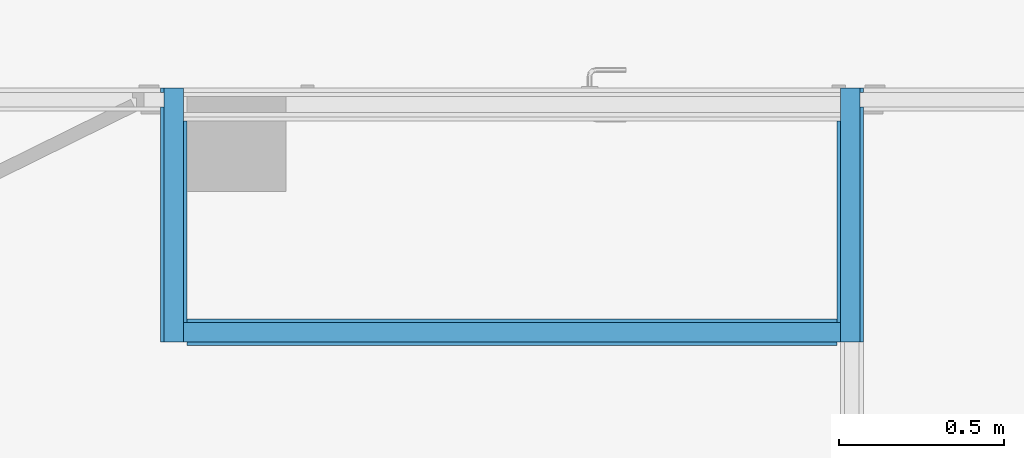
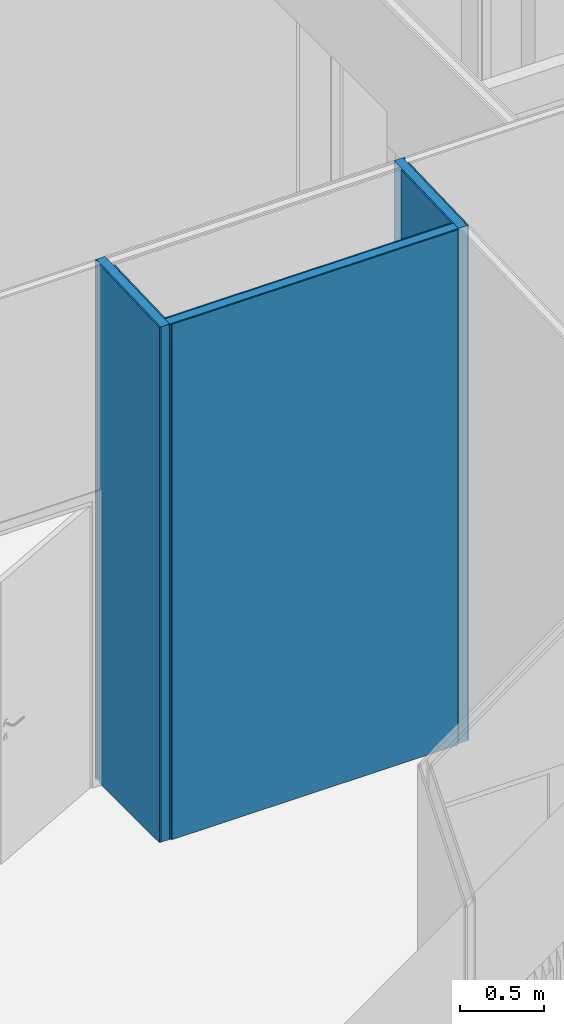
# One storey, part 29 of 34: 9 building element parts, 3 elements without a shape of their own.
"""IFC2X3 building model written with IfcOpenShell, lengths in metres."""

import ifcopenshell
import ifcopenshell.guid

model = None  # the IFC model being written
_history = None  # IfcOwnerHistory: only IFC2X3 demands one
_inside = {}  # id of a spatial element -> (the spatial element, [elements in it])
_under = {}  # id of a project, library or spatial element -> (it, [spatial elements below it])
_declared = {}  # id of a project -> (the project, [libraries it declares])
_typed = {}  # id of a type object -> (the type object, [elements of that type])
_made_of = {}  # id of a material, layer set ... -> (it, [elements and type objects made of it])


def new_model(schema):
    """Start an empty IFC model of exactly this schema.

    Asked for "IFC4X3", IfcOpenShell would pick the latest addendum, in which some entities
    have other attributes; the version numbers below select the first issue.
    IFC2X3 requires an IfcOwnerHistory on every rooted entity: one is made here for all.
    """
    global model, _history
    if schema == "IFC4X3":
        model = ifcopenshell.file(schema_version=(4, 3, 0, 0))
    else:
        model = ifcopenshell.file(schema=schema)
    _inside.clear()
    _under.clear()
    _declared.clear()
    _typed.clear()
    _made_of.clear()
    _history = None
    if model.schema == "IFC2X3":
        org = make("IfcOrganization", Name="unknown")
        user = make(
            "IfcPersonAndOrganization",
            ThePerson=make("IfcPerson", FamilyName="unknown"),
            TheOrganization=org,
        )
        app = make(
            "IfcApplication",
            ApplicationDeveloper=org,
            Version="unknown",
            ApplicationFullName="unknown",
            ApplicationIdentifier="unknown",
        )
        _history = make(
            "IfcOwnerHistory",
            OwningUser=user,
            OwningApplication=app,
            ChangeAction="ADDED",
            CreationDate=0,
        )
    return model


def make(cls, **values):
    """One entity of the class cls with the attributes given. An attribute that is None is left unset."""
    return model.create_entity(
        cls, **{name: value for name, value in values.items() if value is not None}
    )


def entity(cls, *values):
    """Any entity or typed value of the class cls, its attributes in the order of the schema. None: left unset."""
    e = model.create_entity(cls)
    for i, value in enumerate(values):
        if value is not None:
            e[i] = value
    return e


def rooted(cls, **values):
    """An entity with a GlobalId (a new one), such as an element, a storey or a relation."""
    return make(cls, GlobalId=ifcopenshell.guid.new(), OwnerHistory=_history, **values)


def si_unit(unit_type, name, prefix=None):
    """IfcSIUnit, for example si_unit("LENGTHUNIT", "METRE", prefix="MILLI")."""
    return make("IfcSIUnit", UnitType=unit_type, Prefix=prefix, Name=name)


def converted_unit(unit_type, name, factor, base, dimensions=None, offset=None):
    """IfcConversionBasedUnit, such as the inch: factor (a typed value) times the base unit."""
    return make(
        "IfcConversionBasedUnit"
        if offset is None
        else "IfcConversionBasedUnitWithOffset",
        ConversionOffset=offset,
        Dimensions=None
        if dimensions is None
        else entity("IfcDimensionalExponents", *dimensions),
        UnitType=unit_type,
        Name=name,
        ConversionFactor=make(
            "IfcMeasureWithUnit", ValueComponent=factor, UnitComponent=base
        ),
    )


def derived_unit(unit_type, elements):
    """IfcDerivedUnit: a product of units, each with its exponent."""
    return make(
        "IfcDerivedUnit",
        Elements=[
            make("IfcDerivedUnitElement", Unit=unit, Exponent=power)
            for unit, power in elements
        ],
        UnitType=unit_type,
    )


def money_unit(currency):
    """IfcMonetaryUnit."""
    return make("IfcMonetaryUnit", Currency=currency)


def assignment(units):
    """IfcUnitAssignment: the units of a project."""
    return None if units is None else make("IfcUnitAssignment", Units=units)


def point(xyz):
    """IfcCartesianPoint."""
    return None if xyz is None else make("IfcCartesianPoint", Coordinates=xyz)


def direction(xyz):
    """IfcDirection."""
    return None if xyz is None else make("IfcDirection", DirectionRatios=xyz)


def frame(location, z_axis=None, x_axis=None):
    """IfcAxis2Placement3D, a coordinate frame: its origin and axes. An axis left out is left unset."""
    return make(
        "IfcAxis2Placement3D",
        Location=point(location),
        Axis=direction(z_axis),
        RefDirection=direction(x_axis),
    )


def origin_with_axes():
    """The frame at (0, 0, 0) with the z axis (0, 0, 1) and the x axis (1, 0, 0) written out."""
    return frame((0.0, 0.0, 0.0), z_axis=(0.0, 0.0, 1.0), x_axis=(1.0, 0.0, 0.0))


def place(relative_to, where):
    """IfcLocalPlacement: puts the frame where relative to a parent placement (None: the world)."""
    return make(
        "IfcLocalPlacement", PlacementRelTo=relative_to, RelativePlacement=where
    )


def context(
    kind, dimensions, precision=None, world=None, true_north=None, identifier=None
):
    """IfcGeometricRepresentationContext, for example the 3D "Model" context."""
    return make(
        "IfcGeometricRepresentationContext",
        ContextIdentifier=identifier,
        ContextType=kind,
        CoordinateSpaceDimension=dimensions,
        Precision=precision,
        WorldCoordinateSystem=world,
        TrueNorth=true_north,
    )


def subcontext(parent, identifier, kind, view, scale=None):
    """IfcGeometricRepresentationSubContext, for example "Body" below "Model"."""
    return make(
        "IfcGeometricRepresentationSubContext",
        ContextIdentifier=identifier,
        ContextType=kind,
        ParentContext=parent,
        TargetScale=scale,
        TargetView=view,
    )


def project(units=None, contexts=None):
    """IfcProject with its units and contexts."""
    return rooted(
        "IfcProject",
        Name="project",
        RepresentationContexts=contexts,
        UnitsInContext=assignment(units),
    )


def spatial(cls, under=None, at=None, **own):
    """A site, building, storey or space (cls), placed at a placement, below another one or the project."""
    s = rooted(cls, ObjectPlacement=at, **own)
    if under is not None:
        _under.setdefault(under.id(), (under, []))[1].append(s)
    return s


def polyline(points):
    """IfcPolyline through the points."""
    return make("IfcPolyline", Points=[point(p) for p in points])


def outline(outer, holes=None, kind="AREA"):
    """IfcArbitraryClosedProfileDef: a profile drawn as a closed curve; with holes, ...WithVoids."""
    if holes is None:
        return make("IfcArbitraryClosedProfileDef", ProfileType=kind, OuterCurve=outer)
    return make(
        "IfcArbitraryProfileDefWithVoids",
        ProfileType=kind,
        OuterCurve=outer,
        InnerCurves=holes,
    )


def extrude(swept, where, along, depth):
    """IfcExtrudedAreaSolid: the profile swept, set in the frame where, extruded along a direction by depth."""
    return make(
        "IfcExtrudedAreaSolid",
        SweptArea=swept,
        Position=where,
        ExtrudedDirection=direction(along),
        Depth=depth,
    )


def boolean(op, a, b):
    """IfcBooleanResult of two solids."""
    return make("IfcBooleanResult", Operator=op, FirstOperand=a, SecondOperand=b)


def faces_of(points, faces, orient=None, outer=None):
    """IfcFace entities. A face is a list of loops; a loop is a list of indices into points, from 0.

    orient and outer hold one flag for each loop. By default every Orientation is true, the
    first loop of a face is its IfcFaceOuterBound and the others are IfcFaceBound.
    """
    made = []
    for i, loops in enumerate(faces):
        bounds = []
        for j, loop in enumerate(loops):
            is_outer = j == 0 if outer is None else outer[i][j]
            bounds.append(
                make(
                    "IfcFaceOuterBound" if is_outer else "IfcFaceBound",
                    Bound=make("IfcPolyLoop", Polygon=[points[k] for k in loop]),
                    Orientation=True if orient is None else orient[i][j],
                )
            )
        made.append(make("IfcFace", Bounds=bounds))
    return made


def faceted_brep(points, faces, orient=None, outer=None, voids=None):
    """IfcFacetedBrep: a solid bounded by flat faces; with voids (closed shells), ...WithVoids."""
    shared = [point(p) for p in points]
    hull = make("IfcClosedShell", CfsFaces=faces_of(shared, faces, orient, outer))
    if voids is None:
        return make("IfcFacetedBrep", Outer=hull)
    return make(
        "IfcFacetedBrepWithVoids",
        Outer=hull,
        Voids=[
            make(cls, CfsFaces=faces_of(shared, fs, o, b)) for cls, fs, o, b in voids
        ],
    )


def shape(context_of_items, identifier, shape_type, items):
    """IfcShapeRepresentation: the items that make up one representation, for example the "Body"."""
    return make(
        "IfcShapeRepresentation",
        ContextOfItems=context_of_items,
        RepresentationIdentifier=identifier,
        RepresentationType=shape_type,
        Items=items,
    )


def material(Name=None, Category=None):
    """IfcMaterial."""
    return make("IfcMaterial", Name=Name, Category=Category)


def made_of(thing, what):
    """Note that an element or type object is made of a material, layer set ...; save() writes the relation."""
    if what is not None:
        _made_of.setdefault(what.id(), (what, []))[1].append(thing)
    return thing


def type_object(cls, material=None, **own):
    """A type object (cls), such as IfcWallType, which elements share."""
    return made_of(rooted(cls, **own), material)


def element(
    cls,
    number,
    at=None,
    inside=None,
    cuts=None,
    type_object=None,
    material=None,
    context=None,
    identifier="Body",
    shape_type=None,
    held_by="IfcProductDefinitionShape",
    body=None,
    shapes=None,
    **own,
):
    """One element of the class cls, such as IfcWall. Its Tag is "e" and its number.

    at: its placement. inside: the storey or other place that contains it. cuts: it is an
    opening in that element (IfcRelVoidsElement). A single representation is given by context,
    identifier, shape_type and body (its items); several are given by shapes. held_by: the class
    of the entity that holds the representations. save() writes the other relations.
    """
    e = rooted(cls, Tag="e%d" % number, ObjectPlacement=at, **own)
    if body is not None:
        shapes = [shape(context, identifier, shape_type, body)]
    if shapes is not None:
        e.Representation = make(held_by, Representations=shapes)
    if inside is not None:
        _inside.setdefault(inside.id(), (inside, []))[1].append(e)
    if cuts is not None:
        rooted(
            "IfcRelVoidsElement", RelatingBuildingElement=cuts, RelatedOpeningElement=e
        )
    if type_object is not None:
        _typed.setdefault(type_object.id(), (type_object, []))[1].append(e)
    return made_of(e, material)


def aggregate(whole, parts):
    """IfcRelAggregates: a whole, such as a stair, and the parts it consists of."""
    return rooted("IfcRelAggregates", RelatingObject=whole, RelatedObjects=parts)


def save(model, path):
    """Write the relations noted so far, then the file.

    IfcRelAggregates (storeys below a building ...), IfcRelContainedInSpatialStructure (elements
    in a storey), IfcRelDefinesByType, IfcRelAssociatesMaterial and IfcRelDeclares: one each for
    every whole, place, type object, material and project.
    """
    for whole, parts in _under.values():
        aggregate(whole, parts)
    for where, things in _inside.values():
        rooted(
            "IfcRelContainedInSpatialStructure",
            RelatedElements=things,
            RelatingStructure=where,
        )
    for kind, things in _typed.values():
        rooted("IfcRelDefinesByType", RelatedObjects=things, RelatingType=kind)
    for what, things in _made_of.values():
        rooted("IfcRelAssociatesMaterial", RelatedObjects=things, RelatingMaterial=what)
    for by, libraries in _declared.values():
        rooted("IfcRelDeclares", RelatingContext=by, RelatedDefinitions=libraries)
    model.write(path)


model = new_model("IFC2X3")

# Units and contexts
model_context = context("Model", 3, precision=1e-05, world=origin_with_axes(), true_north=direction((0.0, 1.0)))
body_context = subcontext(model_context, "Body", "Model", "MODEL_VIEW")
ifc_project = project(units=[si_unit("LENGTHUNIT", "METRE"), si_unit("AREAUNIT", "SQUARE_METRE"), si_unit("VOLUMEUNIT", "CUBIC_METRE"), converted_unit("PLANEANGLEUNIT", "DEGREE", entity("IfcPlaneAngleMeasure", 0.0174532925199), si_unit("PLANEANGLEUNIT", "RADIAN"), dimensions=[0, 0, 0, 0, 0, 0, 0]), money_unit("CHF"), converted_unit("TIMEUNIT", "Year", entity("IfcTimeMeasure", 31556926.0), si_unit("TIMEUNIT", "SECOND"), dimensions=[0, 0, 1, 0, 0, 0, 0]), si_unit("MASSUNIT", "GRAM", prefix="KILO"), si_unit("THERMODYNAMICTEMPERATUREUNIT", "DEGREE_CELSIUS"), si_unit("LUMINOUSINTENSITYUNIT", "LUMEN"), si_unit("ENERGYUNIT", "JOULE", prefix="MEGA"), derived_unit("THERMALCONDUCTANCEUNIT", [(si_unit("POWERUNIT", "WATT"), 1), (si_unit("LENGTHUNIT", "METRE"), -1), (si_unit("THERMODYNAMICTEMPERATUREUNIT", "KELVIN"), -1)]), derived_unit("SPECIFICHEATCAPACITYUNIT", [(si_unit("ENERGYUNIT", "JOULE"), 1), (si_unit("MASSUNIT", "GRAM", prefix="KILO"), -1), (si_unit("THERMODYNAMICTEMPERATUREUNIT", "KELVIN"), -1)]), derived_unit("MASSDENSITYUNIT", [(si_unit("MASSUNIT", "GRAM", prefix="KILO"), 1), (si_unit("VOLUMEUNIT", "CUBIC_METRE"), -1)])], contexts=[model_context])

# Site, building, storey
site_placement = place(None, origin_with_axes())
site = spatial("IfcSite", under=ifc_project, at=site_placement, Name="Site", CompositionType="ELEMENT")
building_placement = place(site_placement, origin_with_axes())
building = spatial("IfcBuilding", under=site, at=building_placement, Name="Bâtiment", CompositionType="ELEMENT")
storey_placement = place(building_placement, origin_with_axes())
storey = spatial("IfcBuildingStorey", under=building, at=storey_placement, Name="Rez-de-chaussée", CompositionType="ELEMENT", Elevation=0.0)

# Wall, building element parts
wall_type = type_object("IfcWallType", Name="Carreaux de platre 80", PredefinedType="NOTDEFINED")
wall_1_placement = place(storey_placement, frame((30.5694697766, 10.2101256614, 0.0), z_axis=(0.0, 0.0, 1.0), x_axis=(0.0, 1.0, 0.0)))
wall_1 = element("IfcWall", 1, at=wall_1_placement, inside=storey, type_object=wall_type, Name="MUR_EXT-006")
ifc_material_1 = material(Name="Finition int - Plaque de plâtre")
building_element_part_1_placement = place(wall_1_placement, origin_with_axes())
building_element_part_1 = element("IfcBuildingElementPart", 2, at=building_element_part_1_placement, material=ifc_material_1, Name="Finition int - Plaque de plâtre", context=body_context, shape_type="CSG", body=[
    boolean("DIFFERENCE", boolean("DIFFERENCE", boolean("DIFFERENCE", extrude(outline(polyline([(0.0, 0.0), (0.77, 0.0), (0.77, 0.01), (0.0, 0.01), (0.0, 0.0)])), origin_with_axes(), (0.0, 0.0, 1.0), 4.0), faceted_brep([(0.757, 0.0, 0.0), (0.757, 0.0, 3.77734939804), (0.77, 0.0, 3.77780439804), (0.77, 0.0, 4.0), (0.0, 0.0, 4.0), (0.0, 0.0, 3.75085439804), (0.713, 0.0, 3.77580939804), (0.713, 0.0, 0.0), (0.757, 0.01, 0.0), (0.757, 0.01, 3.77734939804), (0.77, 0.01, 3.77780439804), (0.77, 0.01, 4.0), (0.0, 0.01, 4.0), (0.0, 0.01, 3.75085439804), (0.713, 0.01, 3.77580939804), (0.713, 0.01, 0.0)], [[[0, 1, 2, 3, 4, 5, 6, 7]], [[1, 0, 8, 9]], [[10, 2, 1, 9]], [[2, 10, 11, 3]], [[12, 4, 3, 11]], [[13, 5, 4, 12]], [[6, 5, 13, 14]], [[7, 6, 14, 15]], [[8, 0, 7, 15]], [[9, 8, 15, 14, 13, 12, 11, 10]]])), faceted_brep([(0.713, 0.01, 3.77580939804), (0.757, 0.01, 3.77734939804), (0.77, 0.01, 3.77780439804), (0.77, 0.01, 4.0), (0.0, 0.01, 4.0), (0.0, 0.01, 3.75085439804), (0.77, 0.07, 3.77780439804), (0.0, 0.07, 3.75085439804), (0.06, 0.07, 3.75295439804), (0.67, 0.07, 3.77430439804), (0.77, 0.07, 4.0), (0.0, 0.07, 4.0)], [[[0, 1, 2, 3, 4, 5]], [[6, 2, 1, 0, 5, 7, 8, 9]], [[2, 6, 10, 3]], [[11, 4, 3, 10]], [[7, 5, 4, 11]], [[8, 7, 11, 10, 6, 9]]])), faceted_brep([(0.06, 0.07, 0.0), (0.06, 0.07, 3.75295439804), (0.67, 0.07, 3.77430439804), (0.67, 0.07, 0.0), (0.77, 0.07, 0.0), (0.77, 0.07, 4.0), (0.0, 0.07, 4.0), (0.0, 0.07, 0.0), (0.06, 0.08, 0.0), (0.06, 0.08, 3.75295439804), (0.67, 0.08, 3.77430439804), (0.67, 0.08, 0.0), (0.77, 0.08, 0.0), (0.77, 0.08, 4.0), (0.0, 0.08, 4.0), (0.0, 0.08, 0.0)], [[[0, 1, 2, 3, 4, 5, 6, 7]], [[1, 0, 8, 9]], [[2, 1, 9, 10]], [[3, 2, 10, 11]], [[3, 11, 12, 4]], [[5, 4, 12, 13]], [[14, 6, 5, 13]], [[14, 15, 7, 6]], [[8, 0, 7, 15]], [[9, 8, 15, 14, 13, 12, 11, 10]]])),
])
ifc_material_2 = material(Name="Cloison - Carreaux de plâtre")
building_element_part_2_placement = place(wall_1_placement, origin_with_axes())
building_element_part_2 = element("IfcBuildingElementPart", 3, at=building_element_part_2_placement, material=ifc_material_2, Name="Cloison - Carreaux de plâtre", context=body_context, shape_type="CSG", body=[
    boolean("DIFFERENCE", boolean("DIFFERENCE", boolean("DIFFERENCE", extrude(outline(polyline([(0.0, 0.01), (0.77, 0.01), (0.77, 0.07), (0.0, 0.07), (0.0, 0.01)])), origin_with_axes(), (0.0, 0.0, 1.0), 4.0), faceted_brep([(0.757, 0.0, 0.0), (0.757, 0.0, 3.77734939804), (0.77, 0.0, 3.77780439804), (0.77, 0.0, 4.0), (0.0, 0.0, 4.0), (0.0, 0.0, 3.75085439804), (0.713, 0.0, 3.77580939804), (0.713, 0.0, 0.0), (0.757, 0.01, 0.0), (0.757, 0.01, 3.77734939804), (0.77, 0.01, 3.77780439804), (0.77, 0.01, 4.0), (0.0, 0.01, 4.0), (0.0, 0.01, 3.75085439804), (0.713, 0.01, 3.77580939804), (0.713, 0.01, 0.0)], [[[0, 1, 2, 3, 4, 5, 6, 7]], [[1, 0, 8, 9]], [[10, 2, 1, 9]], [[2, 10, 11, 3]], [[12, 4, 3, 11]], [[13, 5, 4, 12]], [[6, 5, 13, 14]], [[7, 6, 14, 15]], [[8, 0, 7, 15]], [[9, 8, 15, 14, 13, 12, 11, 10]]])), faceted_brep([(0.713, 0.01, 3.77580939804), (0.757, 0.01, 3.77734939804), (0.77, 0.01, 3.77780439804), (0.77, 0.01, 4.0), (0.0, 0.01, 4.0), (0.0, 0.01, 3.75085439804), (0.77, 0.07, 3.77780439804), (0.0, 0.07, 3.75085439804), (0.06, 0.07, 3.75295439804), (0.67, 0.07, 3.77430439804), (0.77, 0.07, 4.0), (0.0, 0.07, 4.0)], [[[0, 1, 2, 3, 4, 5]], [[6, 2, 1, 0, 5, 7, 8, 9]], [[2, 6, 10, 3]], [[11, 4, 3, 10]], [[7, 5, 4, 11]], [[8, 7, 11, 10, 6, 9]]])), faceted_brep([(0.06, 0.07, 0.0), (0.06, 0.07, 3.75295439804), (0.67, 0.07, 3.77430439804), (0.67, 0.07, 0.0), (0.77, 0.07, 0.0), (0.77, 0.07, 4.0), (0.0, 0.07, 4.0), (0.0, 0.07, 0.0), (0.06, 0.08, 0.0), (0.06, 0.08, 3.75295439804), (0.67, 0.08, 3.77430439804), (0.67, 0.08, 0.0), (0.77, 0.08, 0.0), (0.77, 0.08, 4.0), (0.0, 0.08, 4.0), (0.0, 0.08, 0.0)], [[[0, 1, 2, 3, 4, 5, 6, 7]], [[1, 0, 8, 9]], [[2, 1, 9, 10]], [[3, 2, 10, 11]], [[3, 11, 12, 4]], [[5, 4, 12, 13]], [[14, 6, 5, 13]], [[14, 15, 7, 6]], [[8, 0, 7, 15]], [[9, 8, 15, 14, 13, 12, 11, 10]]])),
])
building_element_part_3_placement = place(wall_1_placement, origin_with_axes())
building_element_part_3 = element("IfcBuildingElementPart", 4, at=building_element_part_3_placement, material=ifc_material_1, Name="Finition int - Plaque de plâtre", context=body_context, shape_type="CSG", body=[
    boolean("DIFFERENCE", boolean("DIFFERENCE", boolean("DIFFERENCE", extrude(outline(polyline([(0.0, 0.07), (0.77, 0.07), (0.77, 0.08), (0.0, 0.08), (0.0, 0.07)])), origin_with_axes(), (0.0, 0.0, 1.0), 4.0), faceted_brep([(0.757, 0.0, 0.0), (0.757, 0.0, 3.77734939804), (0.77, 0.0, 3.77780439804), (0.77, 0.0, 4.0), (0.0, 0.0, 4.0), (0.0, 0.0, 3.75085439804), (0.713, 0.0, 3.77580939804), (0.713, 0.0, 0.0), (0.757, 0.01, 0.0), (0.757, 0.01, 3.77734939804), (0.77, 0.01, 3.77780439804), (0.77, 0.01, 4.0), (0.0, 0.01, 4.0), (0.0, 0.01, 3.75085439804), (0.713, 0.01, 3.77580939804), (0.713, 0.01, 0.0)], [[[0, 1, 2, 3, 4, 5, 6, 7]], [[1, 0, 8, 9]], [[10, 2, 1, 9]], [[2, 10, 11, 3]], [[12, 4, 3, 11]], [[13, 5, 4, 12]], [[6, 5, 13, 14]], [[7, 6, 14, 15]], [[8, 0, 7, 15]], [[9, 8, 15, 14, 13, 12, 11, 10]]])), faceted_brep([(0.713, 0.01, 3.77580939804), (0.757, 0.01, 3.77734939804), (0.77, 0.01, 3.77780439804), (0.77, 0.01, 4.0), (0.0, 0.01, 4.0), (0.0, 0.01, 3.75085439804), (0.77, 0.07, 3.77780439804), (0.0, 0.07, 3.75085439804), (0.06, 0.07, 3.75295439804), (0.67, 0.07, 3.77430439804), (0.77, 0.07, 4.0), (0.0, 0.07, 4.0)], [[[0, 1, 2, 3, 4, 5]], [[6, 2, 1, 0, 5, 7, 8, 9]], [[2, 6, 10, 3]], [[11, 4, 3, 10]], [[7, 5, 4, 11]], [[8, 7, 11, 10, 6, 9]]])), faceted_brep([(0.06, 0.07, 0.0), (0.06, 0.07, 3.75295439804), (0.67, 0.07, 3.77430439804), (0.67, 0.07, 0.0), (0.77, 0.07, 0.0), (0.77, 0.07, 4.0), (0.0, 0.07, 4.0), (0.0, 0.07, 0.0), (0.06, 0.08, 0.0), (0.06, 0.08, 3.75295439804), (0.67, 0.08, 3.77430439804), (0.67, 0.08, 0.0), (0.77, 0.08, 0.0), (0.77, 0.08, 4.0), (0.0, 0.08, 4.0), (0.0, 0.08, 0.0)], [[[0, 1, 2, 3, 4, 5, 6, 7]], [[1, 0, 8, 9]], [[2, 1, 9, 10]], [[3, 2, 10, 11]], [[3, 11, 12, 4]], [[5, 4, 12, 13]], [[14, 6, 5, 13]], [[14, 15, 7, 6]], [[8, 0, 7, 15]], [[9, 8, 15, 14, 13, 12, 11, 10]]])),
])
aggregate(wall_1, [building_element_part_1, building_element_part_2, building_element_part_3])

wall_2_placement = place(storey_placement, frame((28.4394697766, 10.2801256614, 0.0), z_axis=(0.0, 0.0, 1.0), x_axis=(1.0, 0.0, 0.0)))
wall_2 = element("IfcWall", 5, at=wall_2_placement, inside=storey, type_object=wall_type, Name="MUR_EXT-006")
building_element_part_4_placement = place(wall_2_placement, origin_with_axes())
building_element_part_4 = element("IfcBuildingElementPart", 6, at=building_element_part_4_placement, material=ifc_material_1, Name="Finition int - Plaque de plâtre", context=body_context, shape_type="CSG", body=[
    boolean("DIFFERENCE", boolean("DIFFERENCE", boolean("DIFFERENCE", extrude(outline(polyline([(0.0, -0.01), (2.13, -0.01), (2.13, 0.0), (0.0, 0.0), (0.0, -0.01)])), origin_with_axes(), (0.0, 0.0, 1.0), 4.0), faceted_brep([(0.08, 0.0, 3.75330439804), (0.08, 0.0, 0.0), (0.0, 0.0, 0.0), (0.0, 0.0, 4.0), (2.13, 0.0, 4.0), (2.13, 0.0, 0.0), (2.05, 0.0, 0.0), (2.05, 0.0, 3.75330439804), (0.08, -0.01, 3.75295439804), (0.08, -0.01, 0.0), (0.0, -0.01, 0.0), (0.0, -0.01, 4.0), (2.13, -0.01, 4.0), (2.13, -0.01, 0.0), (2.05, -0.01, 0.0), (2.05, -0.01, 3.75295439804)], [[[0, 1, 2, 3, 4, 5, 6, 7]], [[1, 0, 8, 9]], [[1, 9, 10, 2]], [[3, 2, 10, 11]], [[3, 11, 12, 4]], [[12, 13, 5, 4]], [[14, 6, 5, 13]], [[7, 6, 14, 15]], [[0, 7, 15, 8]], [[15, 14, 13, 12, 11, 10, 9, 8]]])), faceted_brep([(0.07, -0.01, 3.75295439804), (0.07, -0.01, 0.0), (0.0, -0.01, 0.0), (0.0, -0.01, 4.0), (2.13, -0.01, 4.0), (2.13, -0.01, 0.0), (2.06, -0.01, 0.0), (2.06, -0.01, 3.75295439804), (2.05, -0.01, 3.75295439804), (0.08, -0.01, 3.75295439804), (0.07, -0.07, 3.75085439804), (0.07, -0.07, 0.0), (0.0, -0.07, 0.0), (0.0, -0.07, 4.0), (2.13, -0.07, 4.0), (2.13, -0.07, 0.0), (2.06, -0.07, 0.0), (2.06, -0.07, 3.75085439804), (2.05, -0.07, 3.75085439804), (0.08, -0.07, 3.75085439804)], [[[0, 1, 2, 3, 4, 5, 6, 7, 8, 9]], [[1, 0, 10, 11]], [[1, 11, 12, 2]], [[3, 2, 12, 13]], [[3, 13, 14, 4]], [[14, 15, 5, 4]], [[16, 6, 5, 15]], [[7, 6, 16, 17]], [[8, 7, 17, 18, 19, 10, 0, 9]], [[17, 16, 15, 14, 13, 12, 11, 10, 19, 18]]])), faceted_brep([(0.08, -0.07, 3.75085439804), (0.08, -0.07, 0.0), (0.0, -0.07, 0.0), (0.0, -0.07, 4.0), (2.13, -0.07, 4.0), (2.13, -0.07, 0.0), (2.05, -0.07, 0.0), (2.05, -0.07, 3.75085439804), (0.08, -0.08, 3.75050439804), (0.08, -0.08, 0.0), (0.0, -0.08, 0.0), (0.0, -0.08, 4.0), (2.13, -0.08, 4.0), (2.13, -0.08, 0.0), (2.05, -0.08, 0.0), (2.05, -0.08, 3.75050439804)], [[[0, 1, 2, 3, 4, 5, 6, 7]], [[1, 0, 8, 9]], [[1, 9, 10, 2]], [[3, 2, 10, 11]], [[3, 11, 12, 4]], [[12, 13, 5, 4]], [[14, 6, 5, 13]], [[7, 6, 14, 15]], [[0, 7, 15, 8]], [[15, 14, 13, 12, 11, 10, 9, 8]]])),
])
building_element_part_5_placement = place(wall_2_placement, origin_with_axes())
building_element_part_5 = element("IfcBuildingElementPart", 7, at=building_element_part_5_placement, material=ifc_material_2, Name="Cloison - Carreaux de plâtre", context=body_context, shape_type="CSG", body=[
    boolean("DIFFERENCE", boolean("DIFFERENCE", boolean("DIFFERENCE", extrude(outline(polyline([(0.0, -0.07), (2.13, -0.07), (2.13, -0.01), (0.0, -0.01), (0.0, -0.07)])), origin_with_axes(), (0.0, 0.0, 1.0), 4.0), faceted_brep([(0.08, 0.0, 3.75330439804), (0.08, 0.0, 0.0), (0.0, 0.0, 0.0), (0.0, 0.0, 4.0), (2.13, 0.0, 4.0), (2.13, 0.0, 0.0), (2.05, 0.0, 0.0), (2.05, 0.0, 3.75330439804), (0.08, -0.01, 3.75295439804), (0.08, -0.01, 0.0), (0.0, -0.01, 0.0), (0.0, -0.01, 4.0), (2.13, -0.01, 4.0), (2.13, -0.01, 0.0), (2.05, -0.01, 0.0), (2.05, -0.01, 3.75295439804)], [[[0, 1, 2, 3, 4, 5, 6, 7]], [[1, 0, 8, 9]], [[1, 9, 10, 2]], [[3, 2, 10, 11]], [[3, 11, 12, 4]], [[12, 13, 5, 4]], [[14, 6, 5, 13]], [[7, 6, 14, 15]], [[0, 7, 15, 8]], [[15, 14, 13, 12, 11, 10, 9, 8]]])), faceted_brep([(0.07, -0.01, 3.75295439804), (0.07, -0.01, 0.0), (0.0, -0.01, 0.0), (0.0, -0.01, 4.0), (2.13, -0.01, 4.0), (2.13, -0.01, 0.0), (2.06, -0.01, 0.0), (2.06, -0.01, 3.75295439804), (2.05, -0.01, 3.75295439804), (0.08, -0.01, 3.75295439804), (0.07, -0.07, 3.75085439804), (0.07, -0.07, 0.0), (0.0, -0.07, 0.0), (0.0, -0.07, 4.0), (2.13, -0.07, 4.0), (2.13, -0.07, 0.0), (2.06, -0.07, 0.0), (2.06, -0.07, 3.75085439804), (2.05, -0.07, 3.75085439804), (0.08, -0.07, 3.75085439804)], [[[0, 1, 2, 3, 4, 5, 6, 7, 8, 9]], [[1, 0, 10, 11]], [[1, 11, 12, 2]], [[3, 2, 12, 13]], [[3, 13, 14, 4]], [[14, 15, 5, 4]], [[16, 6, 5, 15]], [[7, 6, 16, 17]], [[8, 7, 17, 18, 19, 10, 0, 9]], [[17, 16, 15, 14, 13, 12, 11, 10, 19, 18]]])), faceted_brep([(0.08, -0.07, 3.75085439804), (0.08, -0.07, 0.0), (0.0, -0.07, 0.0), (0.0, -0.07, 4.0), (2.13, -0.07, 4.0), (2.13, -0.07, 0.0), (2.05, -0.07, 0.0), (2.05, -0.07, 3.75085439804), (0.08, -0.08, 3.75050439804), (0.08, -0.08, 0.0), (0.0, -0.08, 0.0), (0.0, -0.08, 4.0), (2.13, -0.08, 4.0), (2.13, -0.08, 0.0), (2.05, -0.08, 0.0), (2.05, -0.08, 3.75050439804)], [[[0, 1, 2, 3, 4, 5, 6, 7]], [[1, 0, 8, 9]], [[1, 9, 10, 2]], [[3, 2, 10, 11]], [[3, 11, 12, 4]], [[12, 13, 5, 4]], [[14, 6, 5, 13]], [[7, 6, 14, 15]], [[0, 7, 15, 8]], [[15, 14, 13, 12, 11, 10, 9, 8]]])),
])
building_element_part_6_placement = place(wall_2_placement, origin_with_axes())
building_element_part_6 = element("IfcBuildingElementPart", 8, at=building_element_part_6_placement, material=ifc_material_1, Name="Finition int - Plaque de plâtre", context=body_context, shape_type="CSG", body=[
    boolean("DIFFERENCE", boolean("DIFFERENCE", boolean("DIFFERENCE", extrude(outline(polyline([(0.0, -0.08), (2.13, -0.08), (2.13, -0.07), (0.0, -0.07), (0.0, -0.08)])), origin_with_axes(), (0.0, 0.0, 1.0), 4.0), faceted_brep([(0.08, 0.0, 3.75330439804), (0.08, 0.0, 0.0), (0.0, 0.0, 0.0), (0.0, 0.0, 4.0), (2.13, 0.0, 4.0), (2.13, 0.0, 0.0), (2.05, 0.0, 0.0), (2.05, 0.0, 3.75330439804), (0.08, -0.01, 3.75295439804), (0.08, -0.01, 0.0), (0.0, -0.01, 0.0), (0.0, -0.01, 4.0), (2.13, -0.01, 4.0), (2.13, -0.01, 0.0), (2.05, -0.01, 0.0), (2.05, -0.01, 3.75295439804)], [[[0, 1, 2, 3, 4, 5, 6, 7]], [[1, 0, 8, 9]], [[1, 9, 10, 2]], [[3, 2, 10, 11]], [[3, 11, 12, 4]], [[12, 13, 5, 4]], [[14, 6, 5, 13]], [[7, 6, 14, 15]], [[0, 7, 15, 8]], [[15, 14, 13, 12, 11, 10, 9, 8]]])), faceted_brep([(0.07, -0.01, 3.75295439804), (0.07, -0.01, 0.0), (0.0, -0.01, 0.0), (0.0, -0.01, 4.0), (2.13, -0.01, 4.0), (2.13, -0.01, 0.0), (2.06, -0.01, 0.0), (2.06, -0.01, 3.75295439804), (2.05, -0.01, 3.75295439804), (0.08, -0.01, 3.75295439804), (0.07, -0.07, 3.75085439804), (0.07, -0.07, 0.0), (0.0, -0.07, 0.0), (0.0, -0.07, 4.0), (2.13, -0.07, 4.0), (2.13, -0.07, 0.0), (2.06, -0.07, 0.0), (2.06, -0.07, 3.75085439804), (2.05, -0.07, 3.75085439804), (0.08, -0.07, 3.75085439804)], [[[0, 1, 2, 3, 4, 5, 6, 7, 8, 9]], [[1, 0, 10, 11]], [[1, 11, 12, 2]], [[3, 2, 12, 13]], [[3, 13, 14, 4]], [[14, 15, 5, 4]], [[16, 6, 5, 15]], [[7, 6, 16, 17]], [[8, 7, 17, 18, 19, 10, 0, 9]], [[17, 16, 15, 14, 13, 12, 11, 10, 19, 18]]])), faceted_brep([(0.08, -0.07, 3.75085439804), (0.08, -0.07, 0.0), (0.0, -0.07, 0.0), (0.0, -0.07, 4.0), (2.13, -0.07, 4.0), (2.13, -0.07, 0.0), (2.05, -0.07, 0.0), (2.05, -0.07, 3.75085439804), (0.08, -0.08, 3.75050439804), (0.08, -0.08, 0.0), (0.0, -0.08, 0.0), (0.0, -0.08, 4.0), (2.13, -0.08, 4.0), (2.13, -0.08, 0.0), (2.05, -0.08, 0.0), (2.05, -0.08, 3.75050439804)], [[[0, 1, 2, 3, 4, 5, 6, 7]], [[1, 0, 8, 9]], [[1, 9, 10, 2]], [[3, 2, 10, 11]], [[3, 11, 12, 4]], [[12, 13, 5, 4]], [[14, 6, 5, 13]], [[7, 6, 14, 15]], [[0, 7, 15, 8]], [[15, 14, 13, 12, 11, 10, 9, 8]]])),
])
aggregate(wall_2, [building_element_part_4, building_element_part_5, building_element_part_6])

wall_3_placement = place(storey_placement, frame((28.4394697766, 10.2101256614, 0.0), z_axis=(0.0, 0.0, 1.0), x_axis=(0.0, 1.0, 0.0)))
wall_3 = element("IfcWall", 9, at=wall_3_placement, inside=storey, type_object=wall_type, Name="MUR_EXT-006")
building_element_part_7_placement = place(wall_3_placement, origin_with_axes())
building_element_part_7 = element("IfcBuildingElementPart", 10, at=building_element_part_7_placement, material=ifc_material_1, Name="Finition int - Plaque de plâtre", context=body_context, shape_type="CSG", body=[
    boolean("DIFFERENCE", boolean("DIFFERENCE", boolean("DIFFERENCE", extrude(outline(polyline([(0.0, -0.01), (0.77, -0.01), (0.77, 0.0), (0.0, 0.0), (0.0, -0.01)])), origin_with_axes(), (0.0, 0.0, 1.0), 4.0), faceted_brep([(0.757, -0.01, 0.0), (0.757, -0.01, 3.77734939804), (0.770000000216, -0.01, 3.77780439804), (0.77, -0.01, 4.0), (0.0, -0.01, 4.0), (0.0, -0.01, 3.75085439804), (0.713, -0.01, 3.77580939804), (0.713, -0.01, 0.0), (0.757, 0.0, 0.0), (0.757, 0.0, 3.77734939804), (0.770000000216, 0.0, 3.77780439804), (0.77, 0.0, 4.0), (0.0, 0.0, 4.0), (0.0, 0.0, 3.75085439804), (0.713, 0.0, 3.77580939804), (0.713, 0.0, 0.0)], [[[0, 1, 2, 3, 4, 5, 6, 7]], [[1, 0, 8, 9]], [[10, 2, 1, 9]], [[2, 10, 11, 3]], [[12, 4, 3, 11]], [[13, 5, 4, 12]], [[6, 5, 13, 14]], [[7, 6, 14, 15]], [[8, 0, 7, 15]], [[9, 8, 15, 14, 13, 12, 11, 10]]])), faceted_brep([(0.06, -0.07, 3.75295439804), (0.67, -0.07, 3.77430439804), (0.770000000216, -0.07, 3.77780439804), (0.77, -0.07, 4.0), (0.0, -0.07, 4.0), (0.0, -0.07, 3.75085439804), (0.770000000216, -0.01, 3.77780439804), (0.0, -0.01, 3.75085439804), (0.713, -0.01, 3.77580939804), (0.757, -0.01, 3.77734939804), (0.77, -0.01, 4.0), (0.0, -0.01, 4.0)], [[[0, 1, 2, 3, 4, 5]], [[6, 2, 1, 0, 5, 7, 8, 9]], [[2, 6, 10, 3]], [[11, 4, 3, 10]], [[7, 5, 4, 11]], [[8, 7, 11, 10, 6, 9]]])), faceted_brep([(0.06, -0.08, 0.0), (0.06, -0.08, 3.75295439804), (0.67, -0.08, 3.77430439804), (0.67, -0.08, 0.0), (0.77, -0.08, 0.0), (0.77, -0.08, 4.0), (0.0, -0.08, 4.0), (0.0, -0.08, 0.0), (0.06, -0.07, 0.0), (0.06, -0.07, 3.75295439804), (0.67, -0.07, 3.77430439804), (0.67, -0.07, 0.0), (0.77, -0.07, 0.0), (0.77, -0.07, 4.0), (0.0, -0.07, 4.0), (0.0, -0.07, 0.0)], [[[0, 1, 2, 3, 4, 5, 6, 7]], [[1, 0, 8, 9]], [[2, 1, 9, 10]], [[3, 2, 10, 11]], [[3, 11, 12, 4]], [[5, 4, 12, 13]], [[14, 6, 5, 13]], [[14, 15, 7, 6]], [[8, 0, 7, 15]], [[9, 8, 15, 14, 13, 12, 11, 10]]])),
])
building_element_part_8_placement = place(wall_3_placement, origin_with_axes())
building_element_part_8 = element("IfcBuildingElementPart", 11, at=building_element_part_8_placement, material=ifc_material_2, Name="Cloison - Carreaux de plâtre", context=body_context, shape_type="CSG", body=[
    boolean("DIFFERENCE", boolean("DIFFERENCE", boolean("DIFFERENCE", extrude(outline(polyline([(0.0, -0.07), (0.77, -0.07), (0.77, -0.01), (0.0, -0.01), (0.0, -0.07)])), origin_with_axes(), (0.0, 0.0, 1.0), 4.0), faceted_brep([(0.757, -0.01, 0.0), (0.757, -0.01, 3.77734939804), (0.770000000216, -0.01, 3.77780439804), (0.77, -0.01, 4.0), (0.0, -0.01, 4.0), (0.0, -0.01, 3.75085439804), (0.713, -0.01, 3.77580939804), (0.713, -0.01, 0.0), (0.757, 0.0, 0.0), (0.757, 0.0, 3.77734939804), (0.770000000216, 0.0, 3.77780439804), (0.77, 0.0, 4.0), (0.0, 0.0, 4.0), (0.0, 0.0, 3.75085439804), (0.713, 0.0, 3.77580939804), (0.713, 0.0, 0.0)], [[[0, 1, 2, 3, 4, 5, 6, 7]], [[1, 0, 8, 9]], [[10, 2, 1, 9]], [[2, 10, 11, 3]], [[12, 4, 3, 11]], [[13, 5, 4, 12]], [[6, 5, 13, 14]], [[7, 6, 14, 15]], [[8, 0, 7, 15]], [[9, 8, 15, 14, 13, 12, 11, 10]]])), faceted_brep([(0.06, -0.07, 3.75295439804), (0.67, -0.07, 3.77430439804), (0.770000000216, -0.07, 3.77780439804), (0.77, -0.07, 4.0), (0.0, -0.07, 4.0), (0.0, -0.07, 3.75085439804), (0.770000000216, -0.01, 3.77780439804), (0.0, -0.01, 3.75085439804), (0.713, -0.01, 3.77580939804), (0.757, -0.01, 3.77734939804), (0.77, -0.01, 4.0), (0.0, -0.01, 4.0)], [[[0, 1, 2, 3, 4, 5]], [[6, 2, 1, 0, 5, 7, 8, 9]], [[2, 6, 10, 3]], [[11, 4, 3, 10]], [[7, 5, 4, 11]], [[8, 7, 11, 10, 6, 9]]])), faceted_brep([(0.06, -0.08, 0.0), (0.06, -0.08, 3.75295439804), (0.67, -0.08, 3.77430439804), (0.67, -0.08, 0.0), (0.77, -0.08, 0.0), (0.77, -0.08, 4.0), (0.0, -0.08, 4.0), (0.0, -0.08, 0.0), (0.06, -0.07, 0.0), (0.06, -0.07, 3.75295439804), (0.67, -0.07, 3.77430439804), (0.67, -0.07, 0.0), (0.77, -0.07, 0.0), (0.77, -0.07, 4.0), (0.0, -0.07, 4.0), (0.0, -0.07, 0.0)], [[[0, 1, 2, 3, 4, 5, 6, 7]], [[1, 0, 8, 9]], [[2, 1, 9, 10]], [[3, 2, 10, 11]], [[3, 11, 12, 4]], [[5, 4, 12, 13]], [[14, 6, 5, 13]], [[14, 15, 7, 6]], [[8, 0, 7, 15]], [[9, 8, 15, 14, 13, 12, 11, 10]]])),
])
building_element_part_9_placement = place(wall_3_placement, origin_with_axes())
building_element_part_9 = element("IfcBuildingElementPart", 12, at=building_element_part_9_placement, material=ifc_material_1, Name="Finition int - Plaque de plâtre", context=body_context, shape_type="CSG", body=[
    boolean("DIFFERENCE", boolean("DIFFERENCE", boolean("DIFFERENCE", extrude(outline(polyline([(0.0, -0.08), (0.77, -0.08), (0.77, -0.07), (0.0, -0.07), (0.0, -0.08)])), origin_with_axes(), (0.0, 0.0, 1.0), 4.0), faceted_brep([(0.757, -0.01, 0.0), (0.757, -0.01, 3.77734939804), (0.770000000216, -0.01, 3.77780439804), (0.77, -0.01, 4.0), (0.0, -0.01, 4.0), (0.0, -0.01, 3.75085439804), (0.713, -0.01, 3.77580939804), (0.713, -0.01, 0.0), (0.757, 0.0, 0.0), (0.757, 0.0, 3.77734939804), (0.770000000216, 0.0, 3.77780439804), (0.77, 0.0, 4.0), (0.0, 0.0, 4.0), (0.0, 0.0, 3.75085439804), (0.713, 0.0, 3.77580939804), (0.713, 0.0, 0.0)], [[[0, 1, 2, 3, 4, 5, 6, 7]], [[1, 0, 8, 9]], [[10, 2, 1, 9]], [[2, 10, 11, 3]], [[12, 4, 3, 11]], [[13, 5, 4, 12]], [[6, 5, 13, 14]], [[7, 6, 14, 15]], [[8, 0, 7, 15]], [[9, 8, 15, 14, 13, 12, 11, 10]]])), faceted_brep([(0.06, -0.07, 3.75295439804), (0.67, -0.07, 3.77430439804), (0.770000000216, -0.07, 3.77780439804), (0.77, -0.07, 4.0), (0.0, -0.07, 4.0), (0.0, -0.07, 3.75085439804), (0.770000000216, -0.01, 3.77780439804), (0.0, -0.01, 3.75085439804), (0.713, -0.01, 3.77580939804), (0.757, -0.01, 3.77734939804), (0.77, -0.01, 4.0), (0.0, -0.01, 4.0)], [[[0, 1, 2, 3, 4, 5]], [[6, 2, 1, 0, 5, 7, 8, 9]], [[2, 6, 10, 3]], [[11, 4, 3, 10]], [[7, 5, 4, 11]], [[8, 7, 11, 10, 6, 9]]])), faceted_brep([(0.06, -0.08, 0.0), (0.06, -0.08, 3.75295439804), (0.67, -0.08, 3.77430439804), (0.67, -0.08, 0.0), (0.77, -0.08, 0.0), (0.77, -0.08, 4.0), (0.0, -0.08, 4.0), (0.0, -0.08, 0.0), (0.06, -0.07, 0.0), (0.06, -0.07, 3.75295439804), (0.67, -0.07, 3.77430439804), (0.67, -0.07, 0.0), (0.77, -0.07, 0.0), (0.77, -0.07, 4.0), (0.0, -0.07, 4.0), (0.0, -0.07, 0.0)], [[[0, 1, 2, 3, 4, 5, 6, 7]], [[1, 0, 8, 9]], [[2, 1, 9, 10]], [[3, 2, 10, 11]], [[3, 11, 12, 4]], [[5, 4, 12, 13]], [[14, 6, 5, 13]], [[14, 15, 7, 6]], [[8, 0, 7, 15]], [[9, 8, 15, 14, 13, 12, 11, 10]]])),
])
aggregate(wall_3, [building_element_part_7, building_element_part_8, building_element_part_9])

save(model, "model.ifc")
